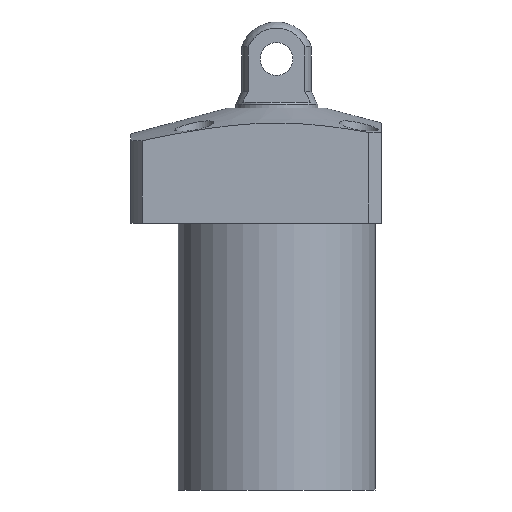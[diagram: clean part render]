
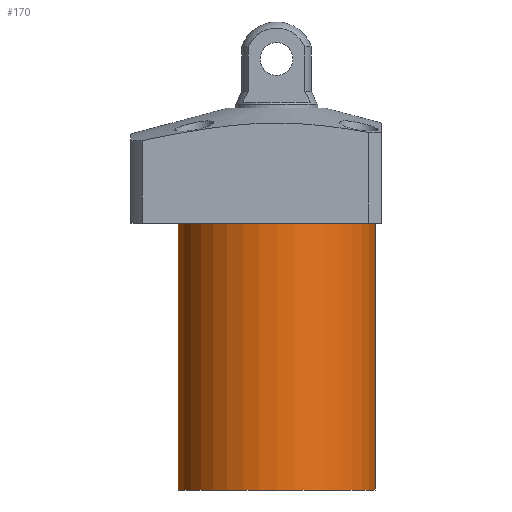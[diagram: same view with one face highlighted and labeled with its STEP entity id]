
A CAD part, front view. The second image highlights one B-rep face of the part: STEP entity #170.
In plain terms, the highlighted cylindrical face has radius 24 mm (diameter 48 mm), a partial arc.
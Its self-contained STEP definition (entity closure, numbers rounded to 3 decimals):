
#27 = VERTEX_POINT ( 'NONE', #1010 ) ;
#124 = CIRCLE ( 'NONE', #1759, 24. ) ;
#170 = ADVANCED_FACE ( 'NONE', ( #1162 ), #1708, .T. ) ;
#330 = DIRECTION ( 'NONE',  ( 1., 0., 0. ) ) ;
#345 = EDGE_CURVE ( 'NONE', #2228, #2191, #1368, .T. ) ;
#396 = AXIS2_PLACEMENT_3D ( 'NONE', #868, #2322, #680 ) ;
#439 = EDGE_LOOP ( 'NONE', ( #600, #1353, #1090, #2257 ) ) ;
#600 = ORIENTED_EDGE ( 'NONE', *, *, #1203, .F. ) ;
#667 = CIRCLE ( 'NONE', #396, 24. ) ;
#680 = DIRECTION ( 'NONE',  ( 1., 0., 0. ) ) ;
#685 = DIRECTION ( 'NONE',  ( 0., 0., 1. ) ) ;
#820 = CARTESIAN_POINT ( 'NONE',  ( 24., 0., -79. ) ) ;
#857 = CARTESIAN_POINT ( 'NONE',  ( -24., 0., -79. ) ) ;
#868 = CARTESIAN_POINT ( 'NONE',  ( 0., 0., -14. ) ) ;
#905 = DIRECTION ( 'NONE',  ( 0., 0., 1. ) ) ;
#943 = VECTOR ( 'NONE', #905, 1000. ) ;
#973 = VECTOR ( 'NONE', #1022, 1000. ) ;
#1010 = CARTESIAN_POINT ( 'NONE',  ( -24., 0., -14. ) ) ;
#1022 = DIRECTION ( 'NONE',  ( 0., 0., 1. ) ) ;
#1038 = CARTESIAN_POINT ( 'NONE',  ( 0., 0., -79. ) ) ;
#1085 = AXIS2_PLACEMENT_3D ( 'NONE', #1038, #685, #330 ) ;
#1090 = ORIENTED_EDGE ( 'NONE', *, *, #345, .T. ) ;
#1162 = FACE_OUTER_BOUND ( 'NONE', #439, .T. ) ;
#1203 = EDGE_CURVE ( 'NONE', #2074, #27, #2112, .T. ) ;
#1351 = CARTESIAN_POINT ( 'NONE',  ( 0., 0., -79. ) ) ;
#1353 = ORIENTED_EDGE ( 'NONE', *, *, #1751, .F. ) ;
#1368 = LINE ( 'NONE', #2182, #943 ) ;
#1543 = DIRECTION ( 'NONE',  ( 0., 0., -1. ) ) ;
#1555 = CARTESIAN_POINT ( 'NONE',  ( 24., 0., -14. ) ) ;
#1590 = CARTESIAN_POINT ( 'NONE',  ( -24., 0., -79. ) ) ;
#1691 = DIRECTION ( 'NONE',  ( -1., 0., 0. ) ) ;
#1708 = CYLINDRICAL_SURFACE ( 'NONE', #1085, 24. ) ;
#1751 = EDGE_CURVE ( 'NONE', #2228, #2074, #124, .T. ) ;
#1759 = AXIS2_PLACEMENT_3D ( 'NONE', #1351, #1543, #1691 ) ;
#1963 = EDGE_CURVE ( 'NONE', #2191, #27, #667, .T. ) ;
#2074 = VERTEX_POINT ( 'NONE', #857 ) ;
#2112 = LINE ( 'NONE', #1590, #973 ) ;
#2182 = CARTESIAN_POINT ( 'NONE',  ( 24., 0., -79. ) ) ;
#2191 = VERTEX_POINT ( 'NONE', #1555 ) ;
#2228 = VERTEX_POINT ( 'NONE', #820 ) ;
#2257 = ORIENTED_EDGE ( 'NONE', *, *, #1963, .T. ) ;
#2322 = DIRECTION ( 'NONE',  ( 0., 0., -1. ) ) ;
